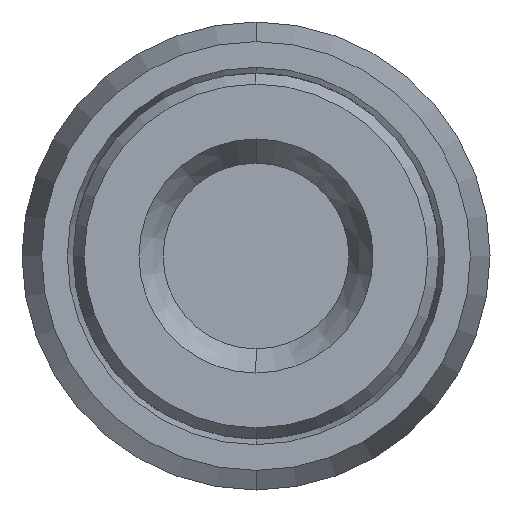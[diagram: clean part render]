
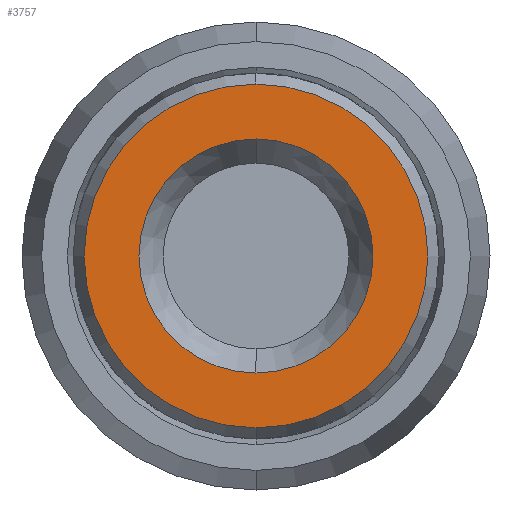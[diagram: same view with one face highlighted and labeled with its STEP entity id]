
A CAD part, front view. The second image highlights one B-rep face of the part: STEP entity #3757.
In plain terms, the highlighted planar face has unit normal (0, -1, 0).
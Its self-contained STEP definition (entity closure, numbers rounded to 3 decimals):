
#54 = CARTESIAN_POINT ( 'NONE',  ( 0., -55.9, 0. ) ) ;
#380 = CARTESIAN_POINT ( 'NONE',  ( 0., -55.9, -8. ) ) ;
#439 = DIRECTION ( 'NONE',  ( 0., 1., 0. ) ) ;
#499 = CARTESIAN_POINT ( 'NONE',  ( 0., -55.9, 0. ) ) ;
#588 = AXIS2_PLACEMENT_3D ( 'NONE', #899, #3138, #1231 ) ;
#627 = CARTESIAN_POINT ( 'NONE',  ( 0., -55.9, 0. ) ) ;
#754 = CARTESIAN_POINT ( 'NONE',  ( 0., -55.9, -11.75 ) ) ;
#821 = DIRECTION ( 'NONE',  ( 0., 0., -1. ) ) ;
#828 = AXIS2_PLACEMENT_3D ( 'NONE', #2359, #439, #2675 ) ;
#899 = CARTESIAN_POINT ( 'NONE',  ( 0., -55.9, 0. ) ) ;
#944 = DIRECTION ( 'NONE',  ( 0., 0., -1. ) ) ;
#1038 = AXIS2_PLACEMENT_3D ( 'NONE', #627, #2855, #944 ) ;
#1048 = VERTEX_POINT ( 'NONE', #380 ) ;
#1052 = PLANE ( 'NONE',  #828 ) ;
#1115 = FACE_BOUND ( 'NONE', #1266, .T. ) ;
#1213 = CIRCLE ( 'NONE', #1038, 11.75 ) ;
#1231 = DIRECTION ( 'NONE',  ( 0., 0., -1. ) ) ;
#1266 = EDGE_LOOP ( 'NONE', ( #2144, #2641 ) ) ;
#1295 = DIRECTION ( 'NONE',  ( 0., 0., -1. ) ) ;
#1325 = AXIS2_PLACEMENT_3D ( 'NONE', #499, #2726, #821 ) ;
#1416 = CIRCLE ( 'NONE', #588, 8. ) ;
#1485 = ORIENTED_EDGE ( 'NONE', *, *, #3427, .F. ) ;
#1572 = EDGE_LOOP ( 'NONE', ( #2488, #1485 ) ) ;
#1746 = EDGE_CURVE ( 'NONE', #3054, #1048, #2097, .T. ) ;
#1768 = CIRCLE ( 'NONE', #1325, 11.75 ) ;
#1802 = VERTEX_POINT ( 'NONE', #2969 ) ;
#1854 = FACE_OUTER_BOUND ( 'NONE', #1572, .T. ) ;
#1862 = AXIS2_PLACEMENT_3D ( 'NONE', #54, #3603, #1295 ) ;
#2097 = CIRCLE ( 'NONE', #1862, 8. ) ;
#2144 = ORIENTED_EDGE ( 'NONE', *, *, #1746, .T. ) ;
#2359 = CARTESIAN_POINT ( 'NONE',  ( 0., -55.9, 0. ) ) ;
#2488 = ORIENTED_EDGE ( 'NONE', *, *, #3646, .F. ) ;
#2641 = ORIENTED_EDGE ( 'NONE', *, *, #3999, .T. ) ;
#2675 = DIRECTION ( 'NONE',  ( 0., 0., -1. ) ) ;
#2726 = DIRECTION ( 'NONE',  ( 0., 1., 0. ) ) ;
#2855 = DIRECTION ( 'NONE',  ( 0., 1., 0. ) ) ;
#2969 = CARTESIAN_POINT ( 'NONE',  ( 0., -55.9, 11.75 ) ) ;
#3054 = VERTEX_POINT ( 'NONE', #3941 ) ;
#3138 = DIRECTION ( 'NONE',  ( 0., 1., 0. ) ) ;
#3427 = EDGE_CURVE ( 'NONE', #1802, #3772, #1768, .T. ) ;
#3603 = DIRECTION ( 'NONE',  ( 0., 1., 0. ) ) ;
#3646 = EDGE_CURVE ( 'NONE', #3772, #1802, #1213, .T. ) ;
#3757 = ADVANCED_FACE ( 'NONE', ( #1115, #1854 ), #1052, .F. ) ;
#3772 = VERTEX_POINT ( 'NONE', #754 ) ;
#3941 = CARTESIAN_POINT ( 'NONE',  ( 0., -55.9, 8. ) ) ;
#3999 = EDGE_CURVE ( 'NONE', #1048, #3054, #1416, .T. ) ;
